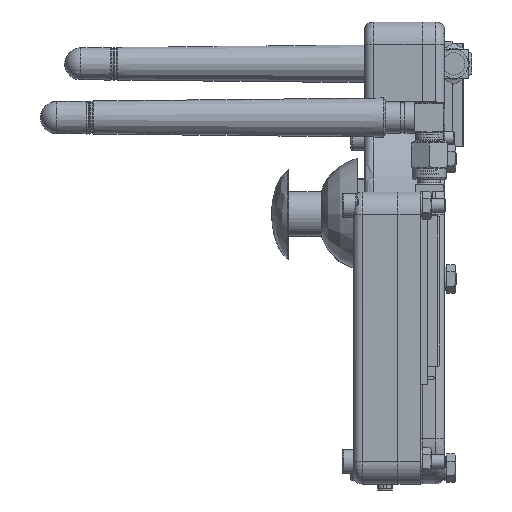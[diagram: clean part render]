
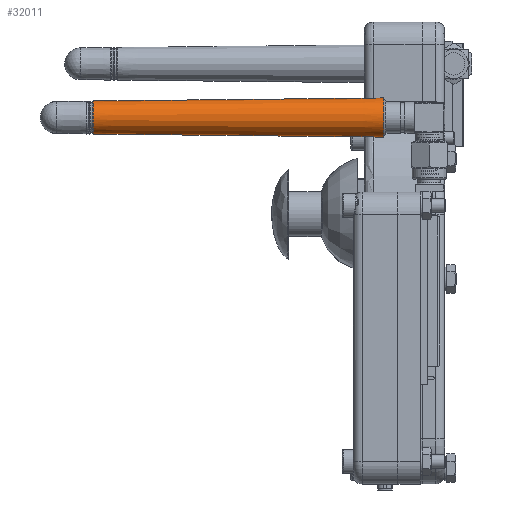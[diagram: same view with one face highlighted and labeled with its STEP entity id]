
A CAD part, front view. The second image highlights one B-rep face of the part: STEP entity #32011.
In plain terms, the highlighted conical face has half-angle 0.592 degrees and reference radius 4.35 mm.
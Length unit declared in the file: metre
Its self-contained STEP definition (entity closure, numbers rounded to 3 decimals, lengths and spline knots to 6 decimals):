
#1944=CONICAL_SURFACE('',#38178,0.00435,0.01);
#2218=CIRCLE('',#38179,0.004353);
#2219=CIRCLE('',#38180,0.003685);
#4697=ORIENTED_EDGE('',*,*,#12779,.T.);
#4698=ORIENTED_EDGE('',*,*,#12780,.T.);
#12779=EDGE_CURVE('',#16960,#16960,#2218,.T.);
#12780=EDGE_CURVE('',#16961,#16961,#2219,.T.);
#16960=VERTEX_POINT('',#52270);
#16961=VERTEX_POINT('',#52272);
#26368=EDGE_LOOP('',(#4697));
#26369=EDGE_LOOP('',(#4698));
#28620=FACE_BOUND('',#26368,.T.);
#28621=FACE_BOUND('',#26369,.T.);
#32011=ADVANCED_FACE('',(#28620,#28621),#1944,.T.);
#38178=AXIS2_PLACEMENT_3D('',#52268,#42362,#42363);
#38179=AXIS2_PLACEMENT_3D('',#52269,#42364,#42365);
#38180=AXIS2_PLACEMENT_3D('',#52271,#42366,#42367);
#42362=DIRECTION('',(0.,-1.,0.));
#42363=DIRECTION('',(0.,0.,-1.));
#42364=DIRECTION('',(0.,1.,0.));
#42365=DIRECTION('',(0.,0.,-1.));
#42366=DIRECTION('',(0.,-1.,0.));
#42367=DIRECTION('',(0.,0.,-1.));
#52268=CARTESIAN_POINT('',(0.,0.01045,0.));
#52269=CARTESIAN_POINT('',(0.,0.010133,0.));
#52270=CARTESIAN_POINT('',(0.,0.010133,-0.004353));
#52271=CARTESIAN_POINT('',(0.,0.074829,0.));
#52272=CARTESIAN_POINT('',(0.,0.074829,-0.003685));
